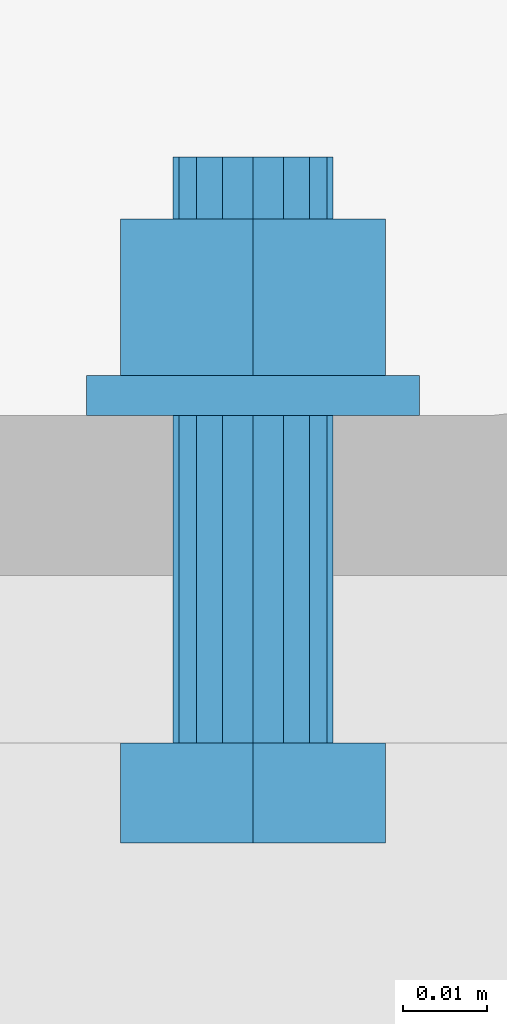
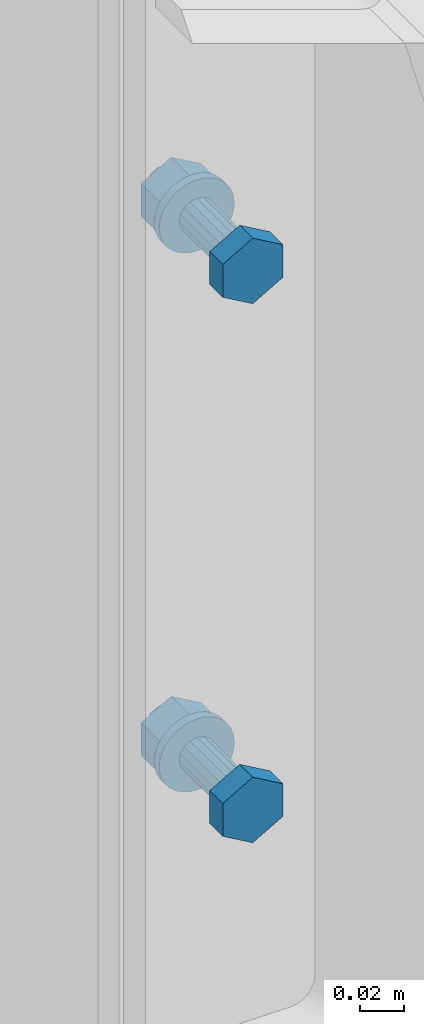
# Not in any storey, part 27 of 51: 2 mechanical fasteners.
"""IFC4 model written with IfcOpenShell, lengths in feet."""

from ifc_helpers import new_model, entity, si_unit, converted_unit, direction, origin, origin_with_axes, place, context, project, spatial, faceted_brep, element, save


model = new_model("IFC4")

# Units and contexts
model_context = context("Model", 3, precision=0.0001, world=origin(), true_north=direction((6.123233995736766e-17, 1.0)))
ifc_project = project(units=[converted_unit("LENGTHUNIT", "FOOT", entity("IfcLengthMeasure", 0.3048), si_unit("LENGTHUNIT", "METRE"), dimensions=[1, 0, 0, 0, 0, 0, 0]), converted_unit("AREAUNIT", "SQUARE INCH", entity("IfcAreaMeasure", 0.0006451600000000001), si_unit("AREAUNIT", "SQUARE_METRE"), dimensions=[2, 0, 0, 0, 0, 0, 0]), converted_unit("PLANEANGLEUNIT", "DEGREE", entity("IfcPlaneAngleMeasure", 0.017453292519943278), si_unit("PLANEANGLEUNIT", "RADIAN"), dimensions=[0, 0, 0, 0, 0, 0, 0]), si_unit("VOLUMEUNIT", "CUBIC_METRE")], contexts=[model_context])

# Site
site_placement = place(None, origin())
site = spatial("IfcSite", under=ifc_project, at=site_placement, Name="Default", CompositionType="ELEMENT")

# Mechanical fasteners
mechanical_fastener_1_placement = place(site_placement, origin_with_axes())
element("IfcMechanicalFastener", 1, at=mechanical_fastener_1_placement, inside=site, ObjectType="Bolt#7", NominalDiameter=0.0625, NominalLength=0.22916666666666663, context=model_context, shape_type="Brep", body=[
    faceted_brep([(11.159774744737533, 57.11617206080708, 17.178057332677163), (11.159774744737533, 57.07710972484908, 17.178057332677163), (11.1079034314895, 57.07710972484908, 17.148109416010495), (11.1079034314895, 57.11617206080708, 17.148109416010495), (11.05603211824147, 57.07710972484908, 17.178057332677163), (11.05603211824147, 57.11617206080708, 17.178057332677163), (11.05603211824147, 57.07710972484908, 17.2379531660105), (11.05603211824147, 57.11617206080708, 17.2379531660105), (11.1079034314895, 57.07710972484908, 17.267901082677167), (11.1079034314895, 57.11617206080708, 17.267901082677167), (11.159774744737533, 57.07710972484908, 17.2379531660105), (11.159774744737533, 57.11617206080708, 17.2379531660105)], [[[0, 1, 2, 3]], [[3, 2, 4, 5]], [[5, 4, 6, 7]], [[7, 6, 8, 9]], [[9, 8, 10, 11]], [[11, 10, 1, 0]], [[4, 2, 1, 10, 8, 6]], [[0, 3, 5, 7, 9, 11]]]),
    faceted_brep([(11.0766534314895, 57.11617206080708, 17.20800524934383), (11.0766534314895, 57.24428885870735, 17.20800524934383), (11.079032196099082, 57.24428885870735, 17.196046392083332), (11.079032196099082, 57.11617206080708, 17.196046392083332), (11.085806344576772, 57.24428885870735, 17.185908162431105), (11.085806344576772, 57.11617206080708, 17.185908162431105), (11.095944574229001, 57.24428885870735, 17.17913401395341), (11.095944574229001, 57.11617206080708, 17.17913401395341), (11.1079034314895, 57.24428885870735, 17.17675524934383), (11.1079034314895, 57.11617206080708, 17.17675524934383), (11.11986228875, 57.24428885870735, 17.17913401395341), (11.11986228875, 57.11617206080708, 17.17913401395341), (11.13000051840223, 57.24428885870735, 17.185908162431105), (11.13000051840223, 57.11617206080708, 17.185908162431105), (11.136774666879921, 57.24428885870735, 17.196046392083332), (11.136774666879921, 57.11617206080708, 17.196046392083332), (11.139153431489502, 57.24428885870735, 17.20800524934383), (11.139153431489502, 57.11617206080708, 17.20800524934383), (11.136774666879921, 57.24428885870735, 17.21996410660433), (11.136774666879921, 57.11617206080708, 17.21996410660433), (11.13000051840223, 57.24428885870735, 17.23010233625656), (11.13000051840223, 57.11617206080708, 17.23010233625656), (11.11986228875, 57.24428885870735, 17.236876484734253), (11.11986228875, 57.11617206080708, 17.236876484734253), (11.1079034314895, 57.24428885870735, 17.23925524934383), (11.1079034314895, 57.11617206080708, 17.23925524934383), (11.095944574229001, 57.24428885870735, 17.236876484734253), (11.095944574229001, 57.11617206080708, 17.236876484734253), (11.085806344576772, 57.24428885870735, 17.23010233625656), (11.085806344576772, 57.11617206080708, 17.23010233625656), (11.079032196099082, 57.24428885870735, 17.21996410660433), (11.079032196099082, 57.11617206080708, 17.21996410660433)], [[[0, 1, 2, 3]], [[3, 2, 4, 5]], [[5, 4, 6, 7]], [[7, 6, 8, 9]], [[9, 8, 10, 11]], [[11, 10, 12, 13]], [[13, 12, 14, 15]], [[15, 14, 16, 17]], [[17, 16, 18, 19]], [[19, 18, 20, 21]], [[21, 20, 22, 23]], [[23, 22, 24, 25]], [[25, 24, 26, 27]], [[27, 26, 28, 29]], [[29, 28, 30, 31]], [[31, 30, 1, 0]], [[0, 3, 5, 7, 9, 11, 13, 15, 17, 19, 21, 23, 25, 27, 29, 31]], [[1, 30, 28, 26, 24, 22, 20, 18, 16, 14, 12, 10, 8, 6, 4, 2]]]),
    faceted_brep([(11.042799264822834, 57.24428885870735, 17.20800524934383), (11.042799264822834, 57.25991385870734, 17.20800524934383), (11.044050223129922, 57.25991385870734, 17.195304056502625), (11.044050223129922, 57.24428885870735, 17.195304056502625), (11.047755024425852, 57.25991385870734, 17.183090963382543), (11.047755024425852, 57.24428885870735, 17.183090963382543), (11.053771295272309, 57.25991385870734, 17.171835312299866), (11.053771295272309, 57.24428885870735, 17.171835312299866), (11.061867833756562, 57.25991385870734, 17.161969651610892), (11.061867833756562, 57.24428885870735, 17.161969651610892), (11.071733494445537, 57.25991385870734, 17.15387311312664), (11.071733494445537, 57.24428885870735, 17.15387311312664), (11.082989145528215, 57.25991385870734, 17.147856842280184), (11.082989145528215, 57.24428885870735, 17.147856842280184), (11.095202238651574, 57.25991385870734, 17.144152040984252), (11.095202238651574, 57.24428885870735, 17.144152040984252), (11.1079034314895, 57.25991385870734, 17.142901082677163), (11.1079034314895, 57.24428885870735, 17.142901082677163), (11.120604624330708, 57.25991385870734, 17.144152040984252), (11.120604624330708, 57.24428885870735, 17.144152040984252), (11.132817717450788, 57.25991385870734, 17.147856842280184), (11.132817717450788, 57.24428885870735, 17.147856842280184), (11.144073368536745, 57.25991385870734, 17.15387311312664), (11.144073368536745, 57.24428885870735, 17.15387311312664), (11.15393902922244, 57.25991385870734, 17.161969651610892), (11.15393902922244, 57.24428885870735, 17.161969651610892), (11.162035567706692, 57.25991385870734, 17.171835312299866), (11.162035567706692, 57.24428885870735, 17.171835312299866), (11.168051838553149, 57.25991385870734, 17.183090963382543), (11.168051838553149, 57.24428885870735, 17.183090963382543), (11.17175663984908, 57.25991385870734, 17.195304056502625), (11.17175663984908, 57.24428885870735, 17.195304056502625), (11.173007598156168, 57.25991385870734, 17.20800524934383), (11.173007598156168, 57.24428885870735, 17.20800524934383), (11.17175663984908, 57.25991385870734, 17.220706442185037), (11.17175663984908, 57.24428885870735, 17.220706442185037), (11.168051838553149, 57.25991385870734, 17.23291953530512), (11.168051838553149, 57.24428885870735, 17.23291953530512), (11.162035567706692, 57.25991385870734, 17.244175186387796), (11.162035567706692, 57.24428885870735, 17.244175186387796), (11.15393902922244, 57.25991385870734, 17.254040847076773), (11.15393902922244, 57.24428885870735, 17.254040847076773), (11.144073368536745, 57.25991385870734, 17.262137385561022), (11.144073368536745, 57.24428885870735, 17.262137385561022), (11.132817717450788, 57.25991385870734, 17.268153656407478), (11.132817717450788, 57.24428885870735, 17.268153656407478), (11.120604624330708, 57.25991385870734, 17.271858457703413), (11.120604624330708, 57.24428885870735, 17.271858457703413), (11.1079034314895, 57.25991385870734, 17.2731094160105), (11.1079034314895, 57.24428885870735, 17.2731094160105), (11.095202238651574, 57.25991385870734, 17.271858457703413), (11.095202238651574, 57.24428885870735, 17.271858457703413), (11.082989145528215, 57.25991385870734, 17.268153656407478), (11.082989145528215, 57.24428885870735, 17.268153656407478), (11.071733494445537, 57.25991385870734, 17.262137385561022), (11.071733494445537, 57.24428885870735, 17.262137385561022), (11.061867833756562, 57.25991385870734, 17.254040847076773), (11.061867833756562, 57.24428885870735, 17.254040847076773), (11.053771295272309, 57.25991385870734, 17.244175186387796), (11.053771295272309, 57.24428885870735, 17.244175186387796), (11.047755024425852, 57.25991385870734, 17.23291953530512), (11.047755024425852, 57.24428885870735, 17.23291953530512), (11.044050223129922, 57.25991385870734, 17.220706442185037), (11.044050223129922, 57.24428885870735, 17.220706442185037)], [[[0, 1, 2, 3]], [[3, 2, 4, 5]], [[5, 4, 6, 7]], [[7, 6, 8, 9]], [[9, 8, 10, 11]], [[11, 10, 12, 13]], [[13, 12, 14, 15]], [[15, 14, 16, 17]], [[17, 16, 18, 19]], [[19, 18, 20, 21]], [[21, 20, 22, 23]], [[23, 22, 24, 25]], [[25, 24, 26, 27]], [[27, 26, 28, 29]], [[29, 28, 30, 31]], [[31, 30, 32, 33]], [[33, 32, 34, 35]], [[35, 34, 36, 37]], [[37, 36, 38, 39]], [[39, 38, 40, 41]], [[41, 40, 42, 43]], [[43, 42, 44, 45]], [[45, 44, 46, 47]], [[47, 46, 48, 49]], [[49, 48, 50, 51]], [[51, 50, 52, 53]], [[53, 52, 54, 55]], [[55, 54, 56, 57]], [[57, 56, 58, 59]], [[59, 58, 60, 61]], [[61, 60, 62, 63]], [[63, 62, 1, 0]], [[0, 3, 5, 7, 9, 11, 13, 15, 17, 19, 21, 23, 25, 27, 29, 31, 33, 35, 37, 39, 41, 43, 45, 47, 49, 51, 53, 55, 57, 59, 61, 63]], [[1, 62, 60, 58, 56, 54, 52, 50, 48, 46, 44, 42, 40, 38, 36, 34, 32, 30, 28, 26, 24, 22, 20, 18, 16, 14, 12, 10, 8, 6, 4, 2]]]),
    faceted_brep([(11.159774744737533, 57.321111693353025, 17.178057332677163), (11.159774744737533, 57.25991385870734, 17.178057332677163), (11.1079034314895, 57.25991385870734, 17.148109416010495), (11.1079034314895, 57.321111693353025, 17.148109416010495), (11.05603211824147, 57.25991385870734, 17.178057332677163), (11.05603211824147, 57.321111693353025, 17.178057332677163), (11.05603211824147, 57.25991385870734, 17.2379531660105), (11.05603211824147, 57.321111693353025, 17.2379531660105), (11.1079034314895, 57.25991385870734, 17.267901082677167), (11.1079034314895, 57.321111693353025, 17.267901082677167), (11.159774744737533, 57.25991385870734, 17.2379531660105), (11.159774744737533, 57.321111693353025, 17.2379531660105)], [[[0, 1, 2, 3]], [[3, 2, 4, 5]], [[5, 4, 6, 7]], [[7, 6, 8, 9]], [[9, 8, 10, 11]], [[11, 10, 1, 0]], [[4, 2, 1, 10, 8, 6]], [[0, 3, 5, 7, 9, 11]]]),
    faceted_brep([(11.0766534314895, 57.321111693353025, 17.20800524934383), (11.0766534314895, 57.34533872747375, 17.20800524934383), (11.079032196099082, 57.34533872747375, 17.196046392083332), (11.079032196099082, 57.321111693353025, 17.196046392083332), (11.085806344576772, 57.34533872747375, 17.185908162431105), (11.085806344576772, 57.321111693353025, 17.185908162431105), (11.095944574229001, 57.34533872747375, 17.17913401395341), (11.095944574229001, 57.321111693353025, 17.17913401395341), (11.1079034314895, 57.34533872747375, 17.17675524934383), (11.1079034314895, 57.321111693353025, 17.17675524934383), (11.11986228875, 57.34533872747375, 17.17913401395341), (11.11986228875, 57.321111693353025, 17.17913401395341), (11.13000051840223, 57.34533872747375, 17.185908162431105), (11.13000051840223, 57.321111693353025, 17.185908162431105), (11.136774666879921, 57.34533872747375, 17.196046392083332), (11.136774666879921, 57.321111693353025, 17.196046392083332), (11.139153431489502, 57.34533872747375, 17.20800524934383), (11.139153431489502, 57.321111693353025, 17.20800524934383), (11.136774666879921, 57.34533872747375, 17.21996410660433), (11.136774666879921, 57.321111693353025, 17.21996410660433), (11.13000051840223, 57.34533872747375, 17.23010233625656), (11.13000051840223, 57.321111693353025, 17.23010233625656), (11.11986228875, 57.34533872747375, 17.236876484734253), (11.11986228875, 57.321111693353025, 17.236876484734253), (11.1079034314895, 57.34533872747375, 17.23925524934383), (11.1079034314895, 57.321111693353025, 17.23925524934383), (11.095944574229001, 57.34533872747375, 17.236876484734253), (11.095944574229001, 57.321111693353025, 17.236876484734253), (11.085806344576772, 57.34533872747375, 17.23010233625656), (11.085806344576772, 57.321111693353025, 17.23010233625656), (11.079032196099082, 57.34533872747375, 17.21996410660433), (11.079032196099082, 57.321111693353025, 17.21996410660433)], [[[0, 1, 2, 3]], [[3, 2, 4, 5]], [[5, 4, 6, 7]], [[7, 6, 8, 9]], [[9, 8, 10, 11]], [[11, 10, 12, 13]], [[13, 12, 14, 15]], [[15, 14, 16, 17]], [[17, 16, 18, 19]], [[19, 18, 20, 21]], [[21, 20, 22, 23]], [[23, 22, 24, 25]], [[25, 24, 26, 27]], [[27, 26, 28, 29]], [[29, 28, 30, 31]], [[31, 30, 1, 0]], [[0, 3, 5, 7, 9, 11, 13, 15, 17, 19, 21, 23, 25, 27, 29, 31]], [[1, 30, 28, 26, 24, 22, 20, 18, 16, 14, 12, 10, 8, 6, 4, 2]]]),
])
mechanical_fastener_2_placement = place(site_placement, origin_with_axes())
element("IfcMechanicalFastener", 2, at=mechanical_fastener_2_placement, inside=site, ObjectType="Bolt#8", NominalDiameter=0.0625, NominalLength=0.22916666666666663, context=model_context, shape_type="Brep", body=[
    faceted_brep([(11.159774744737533, 57.11617206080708, 16.193805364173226), (11.159774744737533, 57.07710972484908, 16.193805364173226), (11.1079034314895, 57.07710972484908, 16.163857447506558), (11.1079034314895, 57.11617206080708, 16.163857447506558), (11.05603211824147, 57.07710972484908, 16.193805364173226), (11.05603211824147, 57.11617206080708, 16.193805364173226), (11.05603211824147, 57.07710972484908, 16.25370119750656), (11.05603211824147, 57.11617206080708, 16.25370119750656), (11.1079034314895, 57.07710972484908, 16.28364911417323), (11.1079034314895, 57.11617206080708, 16.28364911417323), (11.159774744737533, 57.07710972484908, 16.25370119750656), (11.159774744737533, 57.11617206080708, 16.25370119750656)], [[[0, 1, 2, 3]], [[3, 2, 4, 5]], [[5, 4, 6, 7]], [[7, 6, 8, 9]], [[9, 8, 10, 11]], [[11, 10, 1, 0]], [[4, 2, 1, 10, 8, 6]], [[0, 3, 5, 7, 9, 11]]]),
    faceted_brep([(11.0766534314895, 57.11617206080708, 16.223753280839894), (11.0766534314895, 57.24428885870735, 16.223753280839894), (11.079032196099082, 57.24428885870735, 16.211794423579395), (11.079032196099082, 57.11617206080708, 16.211794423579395), (11.085806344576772, 57.24428885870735, 16.201656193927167), (11.085806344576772, 57.11617206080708, 16.201656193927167), (11.095944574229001, 57.24428885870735, 16.19488204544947), (11.095944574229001, 57.11617206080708, 16.19488204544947), (11.1079034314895, 57.24428885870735, 16.192503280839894), (11.1079034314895, 57.11617206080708, 16.192503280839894), (11.11986228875, 57.24428885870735, 16.19488204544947), (11.11986228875, 57.11617206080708, 16.19488204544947), (11.13000051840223, 57.24428885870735, 16.201656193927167), (11.13000051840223, 57.11617206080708, 16.201656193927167), (11.136774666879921, 57.24428885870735, 16.211794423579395), (11.136774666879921, 57.11617206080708, 16.211794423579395), (11.139153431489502, 57.24428885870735, 16.223753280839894), (11.139153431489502, 57.11617206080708, 16.223753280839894), (11.136774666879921, 57.24428885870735, 16.235712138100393), (11.136774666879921, 57.11617206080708, 16.235712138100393), (11.13000051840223, 57.24428885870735, 16.245850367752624), (11.13000051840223, 57.11617206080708, 16.245850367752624), (11.11986228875, 57.24428885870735, 16.252624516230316), (11.11986228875, 57.11617206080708, 16.252624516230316), (11.1079034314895, 57.24428885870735, 16.255003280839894), (11.1079034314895, 57.11617206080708, 16.255003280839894), (11.095944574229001, 57.24428885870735, 16.252624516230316), (11.095944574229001, 57.11617206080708, 16.252624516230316), (11.085806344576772, 57.24428885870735, 16.245850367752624), (11.085806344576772, 57.11617206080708, 16.245850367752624), (11.079032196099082, 57.24428885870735, 16.235712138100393), (11.079032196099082, 57.11617206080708, 16.235712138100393)], [[[0, 1, 2, 3]], [[3, 2, 4, 5]], [[5, 4, 6, 7]], [[7, 6, 8, 9]], [[9, 8, 10, 11]], [[11, 10, 12, 13]], [[13, 12, 14, 15]], [[15, 14, 16, 17]], [[17, 16, 18, 19]], [[19, 18, 20, 21]], [[21, 20, 22, 23]], [[23, 22, 24, 25]], [[25, 24, 26, 27]], [[27, 26, 28, 29]], [[29, 28, 30, 31]], [[31, 30, 1, 0]], [[0, 3, 5, 7, 9, 11, 13, 15, 17, 19, 21, 23, 25, 27, 29, 31]], [[1, 30, 28, 26, 24, 22, 20, 18, 16, 14, 12, 10, 8, 6, 4, 2]]]),
    faceted_brep([(11.042799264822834, 57.24428885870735, 16.223753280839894), (11.042799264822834, 57.25991385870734, 16.223753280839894), (11.044050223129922, 57.25991385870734, 16.211052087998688), (11.044050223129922, 57.24428885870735, 16.211052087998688), (11.047755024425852, 57.25991385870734, 16.198838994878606), (11.047755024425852, 57.24428885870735, 16.198838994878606), (11.053771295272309, 57.25991385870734, 16.18758334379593), (11.053771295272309, 57.24428885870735, 16.18758334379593), (11.061867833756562, 57.25991385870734, 16.177717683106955), (11.061867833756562, 57.24428885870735, 16.177717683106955), (11.071733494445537, 57.25991385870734, 16.169621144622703), (11.071733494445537, 57.24428885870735, 16.169621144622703), (11.082989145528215, 57.25991385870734, 16.163604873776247), (11.082989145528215, 57.24428885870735, 16.163604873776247), (11.095202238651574, 57.25991385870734, 16.159900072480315), (11.095202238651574, 57.24428885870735, 16.159900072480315), (11.1079034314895, 57.25991385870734, 16.158649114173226), (11.1079034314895, 57.24428885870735, 16.158649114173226), (11.120604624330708, 57.25991385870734, 16.159900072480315), (11.120604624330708, 57.24428885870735, 16.159900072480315), (11.132817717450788, 57.25991385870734, 16.163604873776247), (11.132817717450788, 57.24428885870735, 16.163604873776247), (11.144073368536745, 57.25991385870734, 16.169621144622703), (11.144073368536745, 57.24428885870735, 16.169621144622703), (11.15393902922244, 57.25991385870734, 16.177717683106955), (11.15393902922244, 57.24428885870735, 16.177717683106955), (11.162035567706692, 57.25991385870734, 16.18758334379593), (11.162035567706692, 57.24428885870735, 16.18758334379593), (11.168051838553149, 57.25991385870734, 16.198838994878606), (11.168051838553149, 57.24428885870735, 16.198838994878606), (11.17175663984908, 57.25991385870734, 16.211052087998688), (11.17175663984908, 57.24428885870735, 16.211052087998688), (11.173007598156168, 57.25991385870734, 16.223753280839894), (11.173007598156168, 57.24428885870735, 16.223753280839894), (11.17175663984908, 57.25991385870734, 16.2364544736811), (11.17175663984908, 57.24428885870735, 16.2364544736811), (11.168051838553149, 57.25991385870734, 16.24866756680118), (11.168051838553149, 57.24428885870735, 16.24866756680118), (11.162035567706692, 57.25991385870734, 16.25992321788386), (11.162035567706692, 57.24428885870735, 16.25992321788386), (11.15393902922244, 57.25991385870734, 16.269788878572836), (11.15393902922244, 57.24428885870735, 16.269788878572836), (11.144073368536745, 57.25991385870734, 16.277885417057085), (11.144073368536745, 57.24428885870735, 16.277885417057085), (11.132817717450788, 57.25991385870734, 16.28390168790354), (11.132817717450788, 57.24428885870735, 16.28390168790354), (11.120604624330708, 57.25991385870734, 16.287606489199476), (11.120604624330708, 57.24428885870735, 16.287606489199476), (11.1079034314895, 57.25991385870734, 16.28885744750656), (11.1079034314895, 57.24428885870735, 16.28885744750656), (11.095202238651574, 57.25991385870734, 16.287606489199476), (11.095202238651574, 57.24428885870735, 16.287606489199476), (11.082989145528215, 57.25991385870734, 16.28390168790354), (11.082989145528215, 57.24428885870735, 16.28390168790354), (11.071733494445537, 57.25991385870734, 16.277885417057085), (11.071733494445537, 57.24428885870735, 16.277885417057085), (11.061867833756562, 57.25991385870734, 16.269788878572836), (11.061867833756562, 57.24428885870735, 16.269788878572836), (11.053771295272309, 57.25991385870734, 16.25992321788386), (11.053771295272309, 57.24428885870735, 16.25992321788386), (11.047755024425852, 57.25991385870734, 16.24866756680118), (11.047755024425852, 57.24428885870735, 16.24866756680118), (11.044050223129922, 57.25991385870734, 16.2364544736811), (11.044050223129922, 57.24428885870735, 16.2364544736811)], [[[0, 1, 2, 3]], [[3, 2, 4, 5]], [[5, 4, 6, 7]], [[7, 6, 8, 9]], [[9, 8, 10, 11]], [[11, 10, 12, 13]], [[13, 12, 14, 15]], [[15, 14, 16, 17]], [[17, 16, 18, 19]], [[19, 18, 20, 21]], [[21, 20, 22, 23]], [[23, 22, 24, 25]], [[25, 24, 26, 27]], [[27, 26, 28, 29]], [[29, 28, 30, 31]], [[31, 30, 32, 33]], [[33, 32, 34, 35]], [[35, 34, 36, 37]], [[37, 36, 38, 39]], [[39, 38, 40, 41]], [[41, 40, 42, 43]], [[43, 42, 44, 45]], [[45, 44, 46, 47]], [[47, 46, 48, 49]], [[49, 48, 50, 51]], [[51, 50, 52, 53]], [[53, 52, 54, 55]], [[55, 54, 56, 57]], [[57, 56, 58, 59]], [[59, 58, 60, 61]], [[61, 60, 62, 63]], [[63, 62, 1, 0]], [[0, 3, 5, 7, 9, 11, 13, 15, 17, 19, 21, 23, 25, 27, 29, 31, 33, 35, 37, 39, 41, 43, 45, 47, 49, 51, 53, 55, 57, 59, 61, 63]], [[1, 62, 60, 58, 56, 54, 52, 50, 48, 46, 44, 42, 40, 38, 36, 34, 32, 30, 28, 26, 24, 22, 20, 18, 16, 14, 12, 10, 8, 6, 4, 2]]]),
    faceted_brep([(11.159774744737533, 57.321111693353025, 16.193805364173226), (11.159774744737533, 57.25991385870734, 16.193805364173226), (11.1079034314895, 57.25991385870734, 16.163857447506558), (11.1079034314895, 57.321111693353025, 16.163857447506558), (11.05603211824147, 57.25991385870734, 16.193805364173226), (11.05603211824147, 57.321111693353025, 16.193805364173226), (11.05603211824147, 57.25991385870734, 16.25370119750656), (11.05603211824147, 57.321111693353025, 16.25370119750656), (11.1079034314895, 57.25991385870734, 16.28364911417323), (11.1079034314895, 57.321111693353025, 16.28364911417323), (11.159774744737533, 57.25991385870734, 16.25370119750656), (11.159774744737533, 57.321111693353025, 16.25370119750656)], [[[0, 1, 2, 3]], [[3, 2, 4, 5]], [[5, 4, 6, 7]], [[7, 6, 8, 9]], [[9, 8, 10, 11]], [[11, 10, 1, 0]], [[4, 2, 1, 10, 8, 6]], [[0, 3, 5, 7, 9, 11]]]),
    faceted_brep([(11.0766534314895, 57.321111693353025, 16.223753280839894), (11.0766534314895, 57.34533872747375, 16.223753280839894), (11.079032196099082, 57.34533872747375, 16.211794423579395), (11.079032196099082, 57.321111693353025, 16.211794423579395), (11.085806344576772, 57.34533872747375, 16.201656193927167), (11.085806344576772, 57.321111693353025, 16.201656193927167), (11.095944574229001, 57.34533872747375, 16.19488204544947), (11.095944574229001, 57.321111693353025, 16.19488204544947), (11.1079034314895, 57.34533872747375, 16.192503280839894), (11.1079034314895, 57.321111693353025, 16.192503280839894), (11.11986228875, 57.34533872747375, 16.19488204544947), (11.11986228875, 57.321111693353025, 16.19488204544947), (11.13000051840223, 57.34533872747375, 16.201656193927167), (11.13000051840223, 57.321111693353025, 16.201656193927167), (11.136774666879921, 57.34533872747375, 16.211794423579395), (11.136774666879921, 57.321111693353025, 16.211794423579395), (11.139153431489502, 57.34533872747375, 16.223753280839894), (11.139153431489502, 57.321111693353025, 16.223753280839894), (11.136774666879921, 57.34533872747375, 16.235712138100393), (11.136774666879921, 57.321111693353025, 16.235712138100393), (11.13000051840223, 57.34533872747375, 16.245850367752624), (11.13000051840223, 57.321111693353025, 16.245850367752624), (11.11986228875, 57.34533872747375, 16.252624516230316), (11.11986228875, 57.321111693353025, 16.252624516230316), (11.1079034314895, 57.34533872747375, 16.255003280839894), (11.1079034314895, 57.321111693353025, 16.255003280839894), (11.095944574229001, 57.34533872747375, 16.252624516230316), (11.095944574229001, 57.321111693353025, 16.252624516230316), (11.085806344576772, 57.34533872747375, 16.245850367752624), (11.085806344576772, 57.321111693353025, 16.245850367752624), (11.079032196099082, 57.34533872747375, 16.235712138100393), (11.079032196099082, 57.321111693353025, 16.235712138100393)], [[[0, 1, 2, 3]], [[3, 2, 4, 5]], [[5, 4, 6, 7]], [[7, 6, 8, 9]], [[9, 8, 10, 11]], [[11, 10, 12, 13]], [[13, 12, 14, 15]], [[15, 14, 16, 17]], [[17, 16, 18, 19]], [[19, 18, 20, 21]], [[21, 20, 22, 23]], [[23, 22, 24, 25]], [[25, 24, 26, 27]], [[27, 26, 28, 29]], [[29, 28, 30, 31]], [[31, 30, 1, 0]], [[0, 3, 5, 7, 9, 11, 13, 15, 17, 19, 21, 23, 25, 27, 29, 31]], [[1, 30, 28, 26, 24, 22, 20, 18, 16, 14, 12, 10, 8, 6, 4, 2]]]),
])

save(model, "model.ifc")
